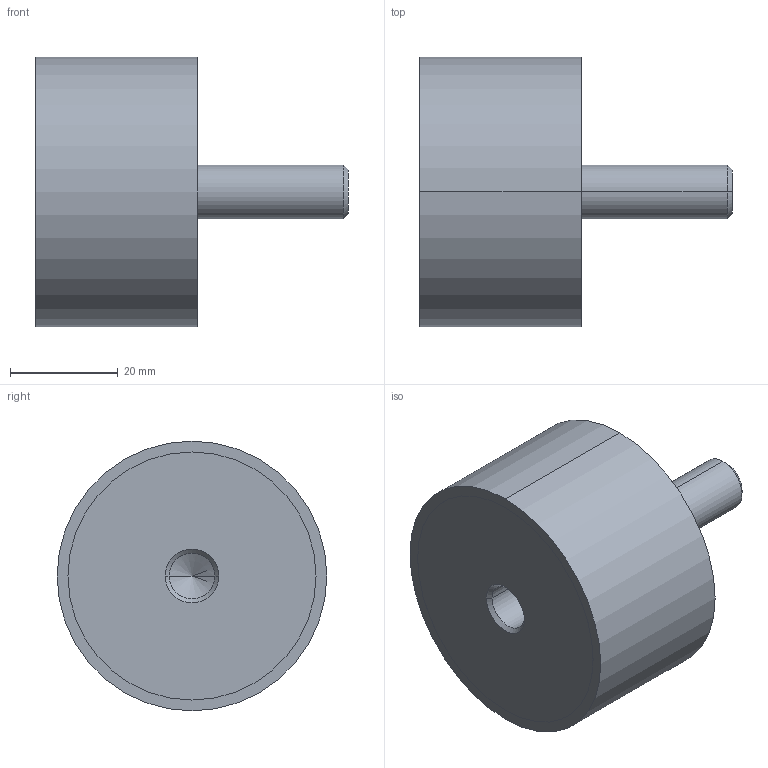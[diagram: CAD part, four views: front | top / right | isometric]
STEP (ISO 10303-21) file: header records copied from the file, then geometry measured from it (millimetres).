
FILE_DESCRIPTION (( 'STEP AP214' ), '1' );
FILE_NAME ('351-50-30-M10-ES-55.step', '2025-07-23T09:50:53', ( '' ), ( '' ), 'SwSTEP 2.0', 'SolidWorks 2022', '' );
FILE_SCHEMA (( 'AUTOMOTIVE_DESIGN' ));
Length unit declared in the file: millimetre
Products named in the file (1): 351-50-30-M10-ES-55
Bounding box: 58 x 50 x 50 mm (x, y, z)
Volume: 60371 mm3; surface area: 9799.6 mm2
Topology: 1 solids, 1 shells, 24 faces, 48 edges, 29 vertices
Faces by surface type: cylinder 12, cone 6, plane 6
Entity records: 740 total; most frequent: DIRECTION 124, CARTESIAN_POINT 100, ORIENTED_EDGE 92, AXIS2_PLACEMENT_3D 53, EDGE_CURVE 46, VERTEX_POINT 29, EDGE_LOOP 29, CIRCLE 28
